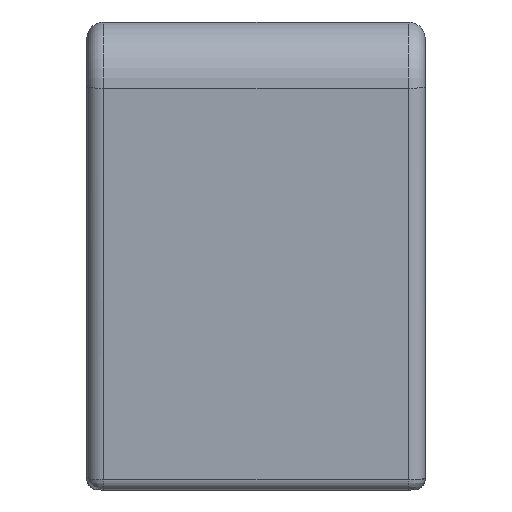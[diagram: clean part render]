
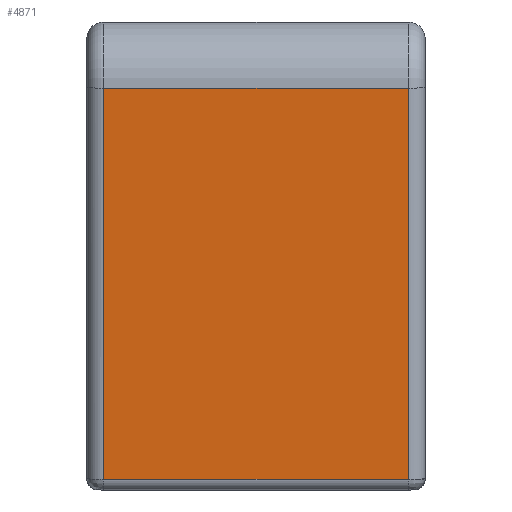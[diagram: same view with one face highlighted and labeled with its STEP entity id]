
A CAD part, left-side view. The second image highlights one B-rep face of the part: STEP entity #4871.
In plain terms, the highlighted planar face has unit normal (-0.998, 0, -0.067).
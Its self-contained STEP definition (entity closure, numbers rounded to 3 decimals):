
#27 = EDGE_LOOP ( 'NONE', ( #3078, #3076, #3074, #3072 ) ) ;
#174 = AXIS2_PLACEMENT_3D ( 'NONE', #2426, #2427, #2428 ) ;
#194 = EDGE_CURVE ( 'NONE', #5098, #5106, #3515, .T. ) ;
#195 = EDGE_CURVE ( 'NONE', #5106, #5100, #3517, .T. ) ;
#592 = EDGE_CURVE ( 'NONE', #5100, #5031, #4106, .T. ) ;
#593 = EDGE_CURVE ( 'NONE', #5098, #5031, #4110, .T. ) ;
#1280 = CARTESIAN_POINT ( 'NONE',  ( -167.388, -13.5, 28.632 ) ) ;
#1347 = CARTESIAN_POINT ( 'NONE',  ( -167.388, 13.5, 28.632 ) ) ;
#1349 = CARTESIAN_POINT ( 'NONE',  ( -165.063, -13.5, -6.067 ) ) ;
#1355 = CARTESIAN_POINT ( 'NONE',  ( -165.063, 13.5, -6.067 ) ) ;
#1401 = DIRECTION ( 'NONE',  ( 0.067, 0., -0.998 ) ) ;
#1402 = CARTESIAN_POINT ( 'NONE',  ( -165., 13.5, -7. ) ) ;
#1419 = DIRECTION ( 'NONE',  ( 0., -1., 0. ) ) ;
#1420 = CARTESIAN_POINT ( 'NONE',  ( -165.063, 15., -6.067 ) ) ;
#2425 = PLANE ( 'NONE',  #174 ) ;
#2426 = CARTESIAN_POINT ( 'NONE',  ( -165., 15., -7. ) ) ;
#2427 = DIRECTION ( 'NONE',  ( -0.998, 0., -0.067 ) ) ;
#2428 = DIRECTION ( 'NONE',  ( -0.067, 0., 0.998 ) ) ;
#3072 = ORIENTED_EDGE ( 'NONE', *, *, #593, .F. ) ;
#3074 = ORIENTED_EDGE ( 'NONE', *, *, #592, .T. ) ;
#3076 = ORIENTED_EDGE ( 'NONE', *, *, #195, .T. ) ;
#3078 = ORIENTED_EDGE ( 'NONE', *, *, #194, .T. ) ;
#3515 = LINE ( 'NONE', #1402, #3516 ) ;
#3516 = VECTOR ( 'NONE', #1401, 1000. ) ;
#3517 = LINE ( 'NONE', #1420, #3518 ) ;
#3518 = VECTOR ( 'NONE', #1419, 1000. ) ;
#3641 = DIRECTION ( 'NONE',  ( 0., -1., 0. ) ) ;
#3643 = CARTESIAN_POINT ( 'NONE',  ( -167.388, 15., 28.632 ) ) ;
#3645 = DIRECTION ( 'NONE',  ( -0.067, 0., 0.998 ) ) ;
#3647 = CARTESIAN_POINT ( 'NONE',  ( -167.388, -13.5, 28.632 ) ) ;
#4106 = LINE ( 'NONE', #3647, #4108 ) ;
#4108 = VECTOR ( 'NONE', #3645, 1000. ) ;
#4110 = LINE ( 'NONE', #3643, #4112 ) ;
#4112 = VECTOR ( 'NONE', #3641, 1000. ) ;
#4445 = FACE_OUTER_BOUND ( 'NONE', #27, .T. ) ;
#4871 = ADVANCED_FACE ( 'NONE', ( #4445 ), #2425, .T. ) ;
#5031 = VERTEX_POINT ( 'NONE', #1280 ) ;
#5098 = VERTEX_POINT ( 'NONE', #1347 ) ;
#5100 = VERTEX_POINT ( 'NONE', #1349 ) ;
#5106 = VERTEX_POINT ( 'NONE', #1355 ) ;
